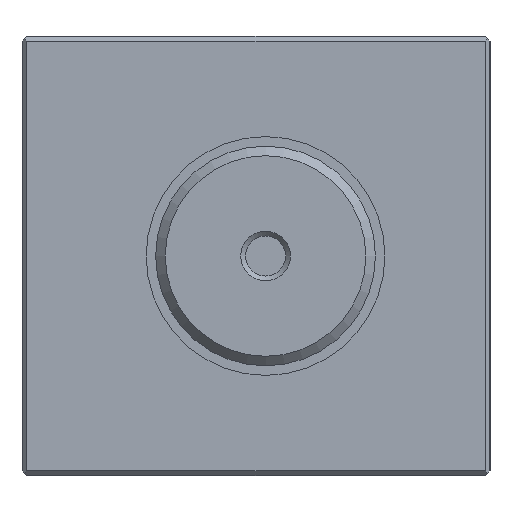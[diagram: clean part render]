
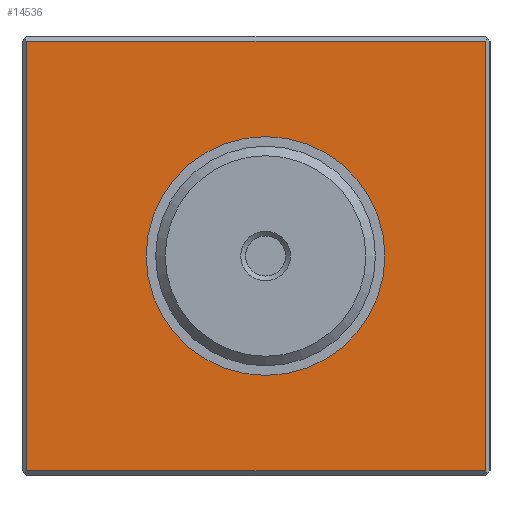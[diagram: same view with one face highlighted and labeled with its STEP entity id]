
A CAD part, left-side view. The second image highlights one B-rep face of the part: STEP entity #14536.
In plain terms, the highlighted planar face has unit normal (-1, 0, 0).
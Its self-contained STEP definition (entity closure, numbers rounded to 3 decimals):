
#507 = VERTEX_POINT ( 'NONE', #39676 ) ;
#853 = LINE ( 'NONE', #37953, #31802 ) ;
#1498 = LINE ( 'NONE', #39447, #39459 ) ;
#1711 = ORIENTED_EDGE ( 'NONE', *, *, #49180, .F. ) ;
#1966 = EDGE_CURVE ( 'NONE', #10315, #34265, #13942, .T. ) ;
#3227 = VECTOR ( 'NONE', #50120, 1000. ) ;
#5351 = CARTESIAN_POINT ( 'NONE',  ( 0., 24.5, -23. ) ) ;
#7877 = EDGE_LOOP ( 'NONE', ( #1711 ) ) ;
#10315 = VERTEX_POINT ( 'NONE', #14183 ) ;
#12734 = EDGE_CURVE ( 'NONE', #14264, #10315, #853, .T. ) ;
#13524 = DIRECTION ( 'NONE',  ( -1., 0., 0. ) ) ;
#13942 = LINE ( 'NONE', #5351, #3227 ) ;
#14183 = CARTESIAN_POINT ( 'NONE',  ( 0., 24.5, 22.5 ) ) ;
#14264 = VERTEX_POINT ( 'NONE', #22738 ) ;
#14536 = ADVANCED_FACE ( 'NONE', ( #51089, #40291 ), #21482, .T. ) ;
#14596 = CARTESIAN_POINT ( 'NONE',  ( 0., 24.5, -22.5 ) ) ;
#17179 = CARTESIAN_POINT ( 'NONE',  ( 0., -13., 0. ) ) ;
#18973 = LINE ( 'NONE', #26225, #39247 ) ;
#20897 = ORIENTED_EDGE ( 'NONE', *, *, #47254, .T. ) ;
#21482 = PLANE ( 'NONE',  #36409 ) ;
#21659 = DIRECTION ( 'NONE',  ( -1., 0., 0. ) ) ;
#22738 = CARTESIAN_POINT ( 'NONE',  ( 0., -23.5, 22.5 ) ) ;
#25872 = DIRECTION ( 'NONE',  ( 0., 1., 0. ) ) ;
#26225 = CARTESIAN_POINT ( 'NONE',  ( 0., -23.5, -23. ) ) ;
#27181 = DIRECTION ( 'NONE',  ( 0., -1., 0. ) ) ;
#28256 = EDGE_CURVE ( 'NONE', #507, #14264, #18973, .T. ) ;
#28317 = EDGE_LOOP ( 'NONE', ( #20897, #44368, #39636, #38378 ) ) ;
#29217 = AXIS2_PLACEMENT_3D ( 'NONE', #37754, #13524, #41853 ) ;
#30306 = DIRECTION ( 'NONE',  ( 0., 0., 1. ) ) ;
#31802 = VECTOR ( 'NONE', #25872, 1000. ) ;
#33638 = VERTEX_POINT ( 'NONE', #17179 ) ;
#34265 = VERTEX_POINT ( 'NONE', #14596 ) ;
#36409 = AXIS2_PLACEMENT_3D ( 'NONE', #45977, #21659, #50067 ) ;
#37754 = CARTESIAN_POINT ( 'NONE',  ( 0., -0.5, 0. ) ) ;
#37953 = CARTESIAN_POINT ( 'NONE',  ( 0., 25., 22.5 ) ) ;
#38378 = ORIENTED_EDGE ( 'NONE', *, *, #1966, .T. ) ;
#39247 = VECTOR ( 'NONE', #30306, 1000. ) ;
#39447 = CARTESIAN_POINT ( 'NONE',  ( 0., 25., -22.5 ) ) ;
#39459 = VECTOR ( 'NONE', #27181, 1000. ) ;
#39636 = ORIENTED_EDGE ( 'NONE', *, *, #12734, .T. ) ;
#39676 = CARTESIAN_POINT ( 'NONE',  ( 0., -23.5, -22.5 ) ) ;
#40291 = FACE_BOUND ( 'NONE', #7877, .T. ) ;
#41853 = DIRECTION ( 'NONE',  ( 0., -1., 0. ) ) ;
#44368 = ORIENTED_EDGE ( 'NONE', *, *, #28256, .T. ) ;
#45977 = CARTESIAN_POINT ( 'NONE',  ( 0., 25., -23. ) ) ;
#47254 = EDGE_CURVE ( 'NONE', #34265, #507, #1498, .T. ) ;
#49180 = EDGE_CURVE ( 'NONE', #33638, #33638, #50248, .T. ) ;
#50067 = DIRECTION ( 'NONE',  ( 0., -1., 0. ) ) ;
#50120 = DIRECTION ( 'NONE',  ( 0., 0., -1. ) ) ;
#50248 = CIRCLE ( 'NONE', #29217, 12.5 ) ;
#51089 = FACE_OUTER_BOUND ( 'NONE', #28317, .T. ) ;
